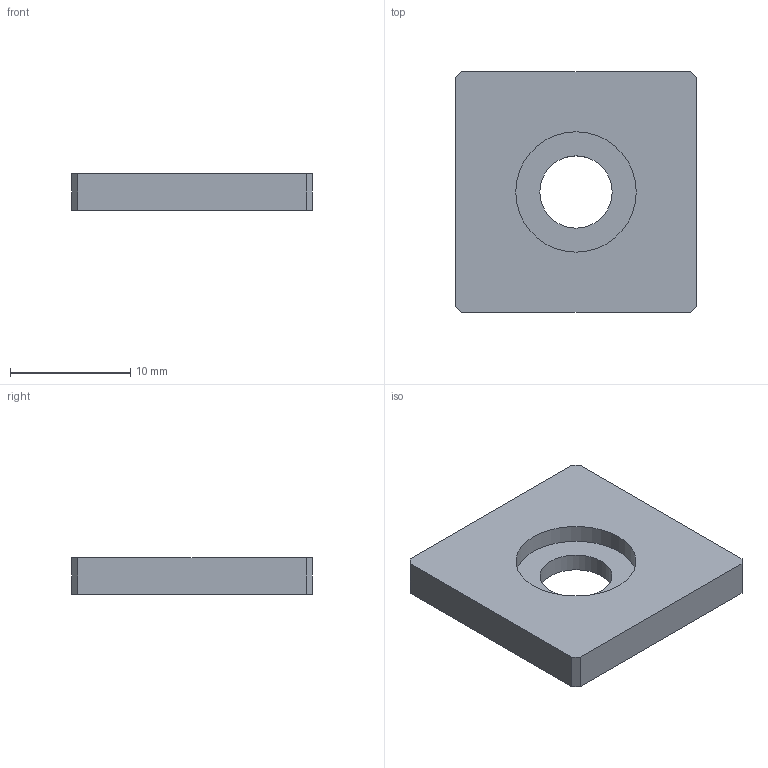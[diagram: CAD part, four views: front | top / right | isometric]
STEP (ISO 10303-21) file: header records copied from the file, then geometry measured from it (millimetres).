
FILE_DESCRIPTION(/* description */ (''),/* implementation_level */ '2;1');
FILE_NAME(/* name */ 'Aluminium End Cap - 20 Series - 20x20 - With Fixings.step',/* time_stamp */ '2025-05-12T23:16:37+03:00',/* author */ (''),/* organization */ (''),/* preprocessor_version */ 'ST-DEVELOPER v20.1',/* originating_system */ 'Autodesk Translation Framework v14.4.0.0',/* authorisation */ '');
FILE_SCHEMA (('AUTOMOTIVE_DESIGN { 1 0 10303 214 3 1 1 }'));
Length unit declared in the file: millimetre
Products named in the file (1): Endcap-20x20
Bounding box: 20 x 20 x 3 mm (x, y, z)
Volume: 1038.3 mm3; surface area: 1054.3 mm2
Topology: 1 solids, 1 shells, 13 faces, 30 edges, 20 vertices
Faces by surface type: plane 11, cylinder 2
Full cylindrical faces by diameter (mm): 6 x1, 10 x1
Entity records: 412 total; most frequent: CARTESIAN_POINT 64, DIRECTION 62, ORIENTED_EDGE 60, EDGE_CURVE 30, LINE 26, VECTOR 26, VERTEX_POINT 20, AXIS2_PLACEMENT_3D 18
